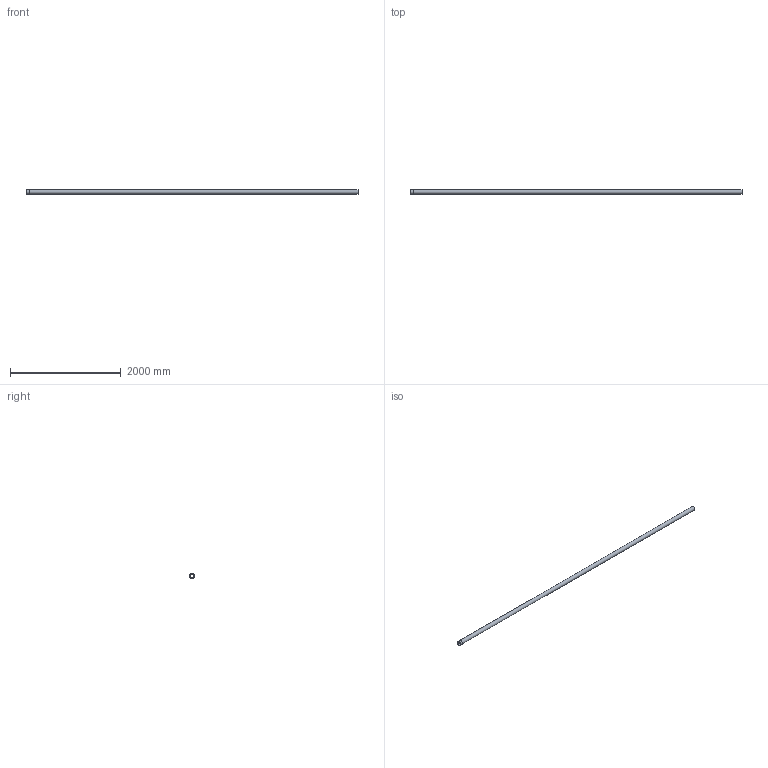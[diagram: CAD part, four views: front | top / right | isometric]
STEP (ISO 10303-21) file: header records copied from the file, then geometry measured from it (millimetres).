
FILE_DESCRIPTION((''),'2;1');
FILE_NAME('I:\WATTS\3D_CAD\3D_CAD_Models\Blucher_Drains\P_StraightPipe\WebsiteFiles\3D\STEP\P3-19.7-316.stp','2009-12-02T14:14:40',('menesek'),(''),'Autodesk Inventor 2010','Autodesk Inventor 2010','');
FILE_SCHEMA(('AUTOMOTIVE_DESIGN { 1 0 10303 214 1 1 1 1 }'));
Length unit declared in the file: inch
Products named in the file (1): P3-19.7-316
Bounding box: 6000 x 87.12 x 87.12 mm (x, y, z)
Volume: 1431272.5 mm3; surface area: 2790523.1 mm2
Topology: 1 solids, 1 shells, 109 faces, 285 edges, 190 vertices
Faces by surface type: plane 59, bspline 34, cylinder 16
Full cylindrical faces by diameter (mm): 72.898 x1, 74.93 x1, 75.946 x2, 87.122 x1
Entity records: 13765 total; most frequent: CARTESIAN_POINT 11387, ORIENTED_EDGE 548, DIRECTION 356, EDGE_CURVE 274, VERTEX_POINT 186, EDGE_LOOP 128, AXIS2_PLACEMENT_3D 120, VECTOR 116
